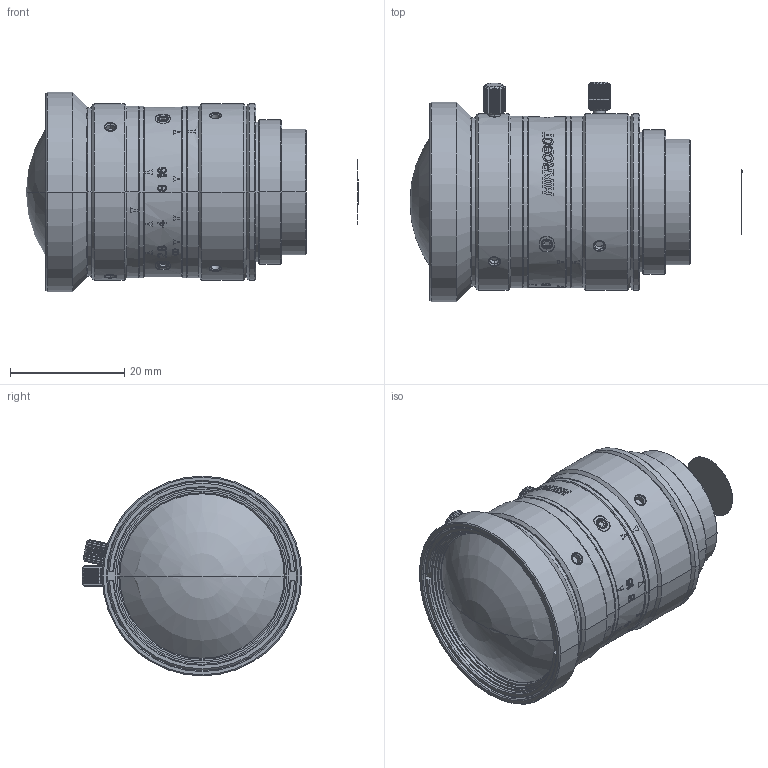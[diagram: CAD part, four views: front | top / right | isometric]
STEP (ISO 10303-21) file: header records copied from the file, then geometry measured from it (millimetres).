
FILE_DESCRIPTION((''),'2;1');
FILE_NAME('MVL-MF0828M-8MP','2021-01-21T15:11:38',('dihaoping'),(''),'CREO PARAMETRIC BY PTC INC, 2017260','CREO PARAMETRIC BY PTC INC, 2017260','');
FILE_SCHEMA(('CONFIG_CONTROL_DESIGN'));
Length unit declared in the file: millimetre
Products named in the file (1): MVL-MF0828M-8MP
Bounding box: 58.17 x 38.5 x 35 mm (x, y, z)
Volume: 31861.4 mm3; surface area: 10066.9 mm2
Topology: 2 solids, 40 shells, 1384 faces, 3943 edges, 2653 vertices
Faces by surface type: plane 508, bspline 459, cylinder 299, cone 97, torus 10, sphere 6, extrusion 5
Entity records: 59005 total; most frequent: CARTESIAN_POINT 25797, ORIENTED_EDGE 7673, DIRECTION 5601, EDGE_CURVE 3937, VERTEX_POINT 2653, AXIS2_PLACEMENT_3D 2028, VECTOR 1545, LINE 1540
